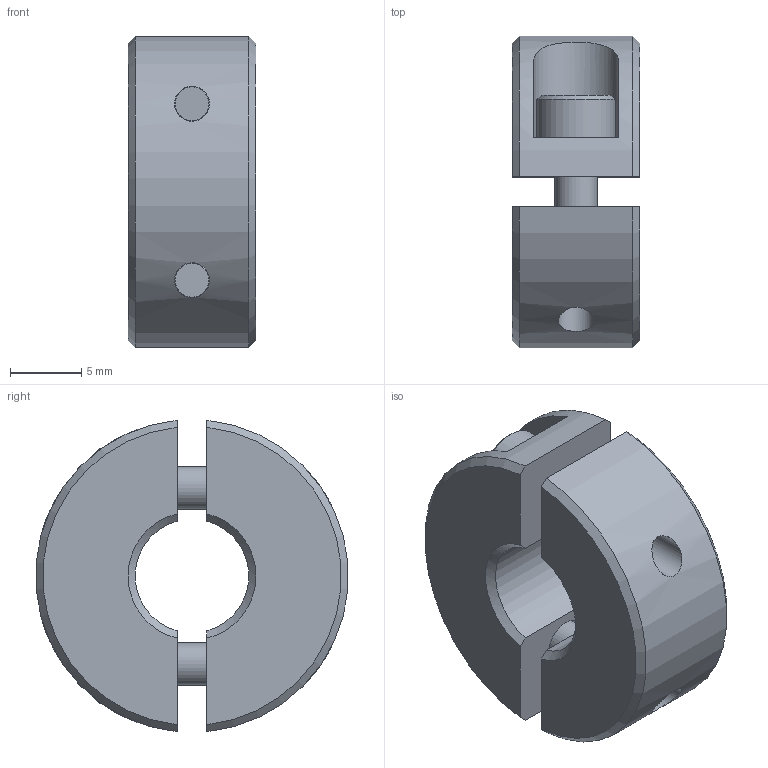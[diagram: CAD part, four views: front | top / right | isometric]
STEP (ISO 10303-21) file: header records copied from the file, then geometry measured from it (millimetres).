
FILE_DESCRIPTION(/* description */ ('STEP AP214'),/* implementation_level */ '2;1');
FILE_NAME(/* name */ 'Split Shaft Collar_ Aluminum GN 707.2-22-B8-AL',/* time_stamp */ '2024-06-10T15:26:08+02:00',/* author */ ('License CC BY-ND 4.0'),/* organization */ ('CADENAS'),/* preprocessor_version */ 'ST-DEVELOPER v19.3',/* originating_system */ 'PARTsolutions',/* authorisation */ ' ');
FILE_SCHEMA (('AUTOMOTIVE_DESIGN {1 0 10303 214 3 1 1}'));
Length unit declared in the file: millimetre
Products named in the file (1): Split Shaft Collar, Aluminum GN 707.2-22-B8-AL
Bounding box: 9 x 21.92 x 21.9 mm (x, y, z)
Volume: 2472.3 mm3; surface area: 1995.2 mm2
Topology: 1 solids, 1 shells, 72 faces, 168 edges, 108 vertices
Faces by surface type: plane 44, cylinder 14, cone 14
Full cylindrical faces by diameter (mm): 2.459 x2, 3 x2, 3.3 x2, 5.5 x2
Entity records: 2494 total; most frequent: CARTESIAN_POINT 409, DIRECTION 324, ORIENTED_EDGE 292, EDGE_CURVE 146, AXIS2_PLACEMENT_3D 125, VERTEX_POINT 102, FACE_BOUND 100, EDGE_LOOP 98
